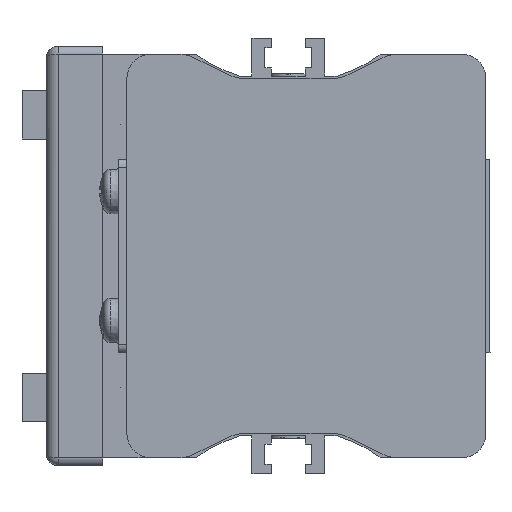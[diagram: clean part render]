
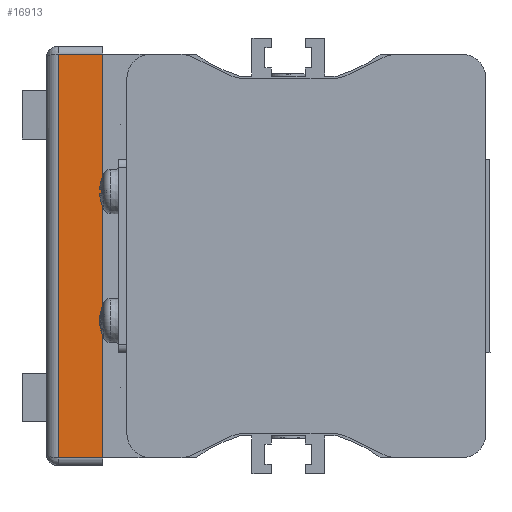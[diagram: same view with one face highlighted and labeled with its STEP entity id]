
A CAD part, left-side view. The second image highlights one B-rep face of the part: STEP entity #16913.
In plain terms, the highlighted planar face has unit normal (-1, 0, 0) as drawn and (0, 0, -1) by its records, which use the part's own axes.
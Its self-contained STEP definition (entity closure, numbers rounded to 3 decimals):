
#2313=LINE('',#32203,#3708);
#2343=LINE('',#32700,#3738);
#2344=LINE('',#32753,#3739);
#2345=LINE('',#32755,#3740);
#3708=VECTOR('',#22608,50.);
#3738=VECTOR('',#22666,50.);
#3739=VECTOR('',#22671,5.5);
#3740=VECTOR('',#22674,5.5);
#4944=FACE_OUTER_BOUND('',#6023,.T.);
#6023=EDGE_LOOP('',(#15335,#15336,#15337,#15338));
#8174=VERTEX_POINT('',#32200);
#8175=VERTEX_POINT('',#32202);
#8203=VERTEX_POINT('',#32565);
#8204=VERTEX_POINT('',#32699);
#10554=EDGE_CURVE('',#8174,#8175,#2313,.T.);
#10595=EDGE_CURVE('',#8204,#8203,#2343,.T.);
#10598=EDGE_CURVE('',#8174,#8204,#2344,.T.);
#10599=EDGE_CURVE('',#8203,#8175,#2345,.T.);
#15335=ORIENTED_EDGE('',*,*,#10595,.T.);
#15336=ORIENTED_EDGE('',*,*,#10599,.T.);
#15337=ORIENTED_EDGE('',*,*,#10554,.F.);
#15338=ORIENTED_EDGE('',*,*,#10598,.T.);
#15994=PLANE('',#18437);
#16913=ADVANCED_FACE('',(#4944),#15994,.T.);
#18437=AXIS2_PLACEMENT_3D('',#32754,#22672,#22673);
#22608=DIRECTION('',(1.,0.,0.));
#22666=DIRECTION('',(1.,0.,0.));
#22671=DIRECTION('',(0.,1.,0.));
#22672=DIRECTION('center_axis',(0.,0.,-1.));
#22673=DIRECTION('ref_axis',(0.,1.,0.));
#22674=DIRECTION('',(0.,-1.,0.));
#32200=CARTESIAN_POINT('',(1.,0.,-97.));
#32202=CARTESIAN_POINT('',(51.,0.,-97.));
#32203=CARTESIAN_POINT('',(1.,0.,-97.));
#32565=CARTESIAN_POINT('',(51.,5.5,-97.));
#32699=CARTESIAN_POINT('',(1.,5.5,-97.));
#32700=CARTESIAN_POINT('',(1.,5.5,-97.));
#32753=CARTESIAN_POINT('',(1.,0.,-97.));
#32754=CARTESIAN_POINT('Origin',(1.,0.,-97.));
#32755=CARTESIAN_POINT('',(51.,5.5,-97.));
